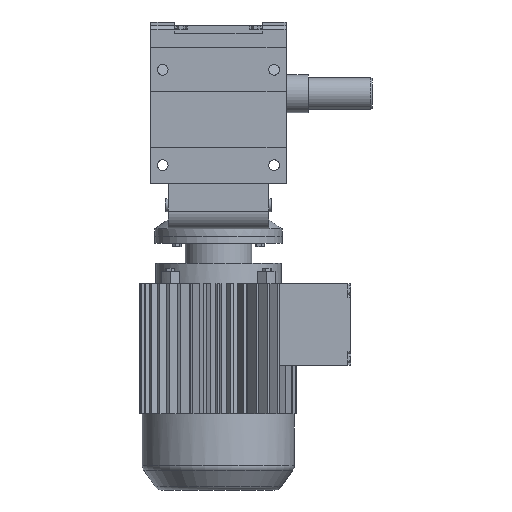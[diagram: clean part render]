
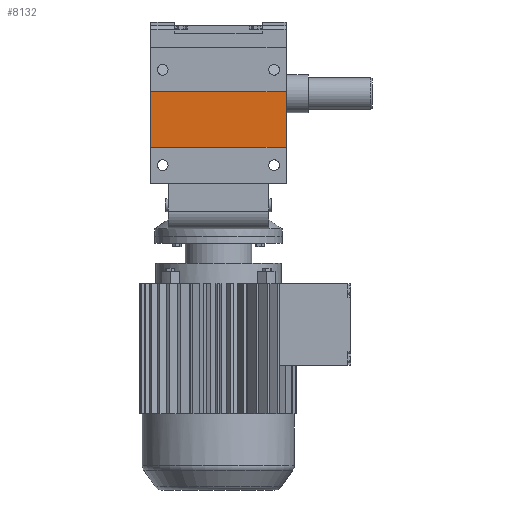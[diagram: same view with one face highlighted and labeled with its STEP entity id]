
A CAD part, front view. The second image highlights one B-rep face of the part: STEP entity #8132.
In plain terms, the highlighted planar face has unit normal (0, -1, 0).
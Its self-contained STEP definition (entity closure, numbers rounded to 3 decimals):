
#634 = PLANE('',#635);
#635 = AXIS2_PLACEMENT_3D('',#636,#637,#638);
#636 = CARTESIAN_POINT('',(-85.,-106.1,61.));
#637 = DIRECTION('',(1.,0.,0.));
#638 = DIRECTION('',(0.,0.,-1.));
#2181 = PLANE('',#2182);
#2182 = AXIS2_PLACEMENT_3D('',#2183,#2184,#2185);
#2183 = CARTESIAN_POINT('',(85.,-106.1,61.));
#2184 = DIRECTION('',(1.,0.,0.));
#2185 = DIRECTION('',(0.,0.,-1.));
#2380 = VERTEX_POINT('',#2381);
#2381 = CARTESIAN_POINT('',(-85.,-135.1,-67.5));
#2395 = PLANE('',#2396);
#2396 = AXIS2_PLACEMENT_3D('',#2397,#2398,#2399);
#2397 = CARTESIAN_POINT('',(85.,-135.1,-67.5));
#2398 = DIRECTION('',(0.,0.,-1.));
#2399 = DIRECTION('',(-1.,0.,0.));
#2407 = EDGE_CURVE('',#2408,#2380,#2410,.T.);
#2408 = VERTEX_POINT('',#2409);
#2409 = CARTESIAN_POINT('',(-85.,-135.1,2.5));
#2410 = SURFACE_CURVE('',#2411,(#2415,#2422),.PCURVE_S1.);
#2411 = LINE('',#2412,#2413);
#2412 = CARTESIAN_POINT('',(-85.,-135.1,2.5));
#2413 = VECTOR('',#2414,1.);
#2414 = DIRECTION('',(0.,0.,-1.));
#2415 = PCURVE('',#634,#2416);
#2416 = DEFINITIONAL_REPRESENTATION('',(#2417),#2421);
#2417 = LINE('',#2418,#2419);
#2418 = CARTESIAN_POINT('',(58.5,-29.));
#2419 = VECTOR('',#2420,1.);
#2420 = DIRECTION('',(1.,0.));
#2421 = ( GEOMETRIC_REPRESENTATION_CONTEXT(2) 
PARAMETRIC_REPRESENTATION_CONTEXT() REPRESENTATION_CONTEXT('2D SPACE',''
  ) );
#2422 = PCURVE('',#2423,#2428);
#2423 = PLANE('',#2424);
#2424 = AXIS2_PLACEMENT_3D('',#2425,#2426,#2427);
#2425 = CARTESIAN_POINT('',(63.25,-135.1,66.));
#2426 = DIRECTION('',(0.,1.,0.));
#2427 = DIRECTION('',(0.,0.,1.));
#2428 = DEFINITIONAL_REPRESENTATION('',(#2429),#2433);
#2429 = LINE('',#2430,#2431);
#2430 = CARTESIAN_POINT('',(-63.5,-148.25));
#2431 = VECTOR('',#2432,1.);
#2432 = DIRECTION('',(-1.,0.));
#2433 = ( GEOMETRIC_REPRESENTATION_CONTEXT(2) 
PARAMETRIC_REPRESENTATION_CONTEXT() REPRESENTATION_CONTEXT('2D SPACE',''
  ) );
#2451 = PLANE('',#2452);
#2452 = AXIS2_PLACEMENT_3D('',#2453,#2454,#2455);
#2453 = CARTESIAN_POINT('',(85.,-135.1,2.5));
#2454 = DIRECTION('',(0.,0.,1.));
#2455 = DIRECTION('',(0.,-1.,0.));
#6750 = VERTEX_POINT('',#6751);
#6751 = CARTESIAN_POINT('',(85.,-135.1,2.5));
#6772 = EDGE_CURVE('',#6750,#6773,#6775,.T.);
#6773 = VERTEX_POINT('',#6774);
#6774 = CARTESIAN_POINT('',(85.,-135.1,-67.5));
#6775 = SURFACE_CURVE('',#6776,(#6780,#6787),.PCURVE_S1.);
#6776 = LINE('',#6777,#6778);
#6777 = CARTESIAN_POINT('',(85.,-135.1,2.5));
#6778 = VECTOR('',#6779,1.);
#6779 = DIRECTION('',(0.,0.,-1.));
#6780 = PCURVE('',#2181,#6781);
#6781 = DEFINITIONAL_REPRESENTATION('',(#6782),#6786);
#6782 = LINE('',#6783,#6784);
#6783 = CARTESIAN_POINT('',(58.5,-29.));
#6784 = VECTOR('',#6785,1.);
#6785 = DIRECTION('',(1.,0.));
#6786 = ( GEOMETRIC_REPRESENTATION_CONTEXT(2) 
PARAMETRIC_REPRESENTATION_CONTEXT() REPRESENTATION_CONTEXT('2D SPACE',''
  ) );
#6787 = PCURVE('',#2423,#6788);
#6788 = DEFINITIONAL_REPRESENTATION('',(#6789),#6793);
#6789 = LINE('',#6790,#6791);
#6790 = CARTESIAN_POINT('',(-63.5,21.75));
#6791 = VECTOR('',#6792,1.);
#6792 = DIRECTION('',(-1.,0.));
#6793 = ( GEOMETRIC_REPRESENTATION_CONTEXT(2) 
PARAMETRIC_REPRESENTATION_CONTEXT() REPRESENTATION_CONTEXT('2D SPACE',''
  ) );
#8132 = ADVANCED_FACE('',(#8133),#2423,.F.);
#8133 = FACE_BOUND('',#8134,.T.);
#8134 = EDGE_LOOP('',(#8135,#8156,#8157,#8178));
#8135 = ORIENTED_EDGE('',*,*,#8136,.T.);
#8136 = EDGE_CURVE('',#6750,#2408,#8137,.T.);
#8137 = SURFACE_CURVE('',#8138,(#8142,#8149),.PCURVE_S1.);
#8138 = LINE('',#8139,#8140);
#8139 = CARTESIAN_POINT('',(85.,-135.1,2.5));
#8140 = VECTOR('',#8141,1.);
#8141 = DIRECTION('',(-1.,0.,0.));
#8142 = PCURVE('',#2423,#8143);
#8143 = DEFINITIONAL_REPRESENTATION('',(#8144),#8148);
#8144 = LINE('',#8145,#8146);
#8145 = CARTESIAN_POINT('',(-63.5,21.75));
#8146 = VECTOR('',#8147,1.);
#8147 = DIRECTION('',(0.,-1.));
#8148 = ( GEOMETRIC_REPRESENTATION_CONTEXT(2) 
PARAMETRIC_REPRESENTATION_CONTEXT() REPRESENTATION_CONTEXT('2D SPACE',''
  ) );
#8149 = PCURVE('',#2451,#8150);
#8150 = DEFINITIONAL_REPRESENTATION('',(#8151),#8155);
#8151 = LINE('',#8152,#8153);
#8152 = CARTESIAN_POINT('',(0.,0.));
#8153 = VECTOR('',#8154,1.);
#8154 = DIRECTION('',(0.,-1.));
#8155 = ( GEOMETRIC_REPRESENTATION_CONTEXT(2) 
PARAMETRIC_REPRESENTATION_CONTEXT() REPRESENTATION_CONTEXT('2D SPACE',''
  ) );
#8156 = ORIENTED_EDGE('',*,*,#2407,.T.);
#8157 = ORIENTED_EDGE('',*,*,#8158,.F.);
#8158 = EDGE_CURVE('',#6773,#2380,#8159,.T.);
#8159 = SURFACE_CURVE('',#8160,(#8164,#8171),.PCURVE_S1.);
#8160 = LINE('',#8161,#8162);
#8161 = CARTESIAN_POINT('',(85.,-135.1,-67.5));
#8162 = VECTOR('',#8163,1.);
#8163 = DIRECTION('',(-1.,0.,0.));
#8164 = PCURVE('',#2423,#8165);
#8165 = DEFINITIONAL_REPRESENTATION('',(#8166),#8170);
#8166 = LINE('',#8167,#8168);
#8167 = CARTESIAN_POINT('',(-133.5,21.75));
#8168 = VECTOR('',#8169,1.);
#8169 = DIRECTION('',(0.,-1.));
#8170 = ( GEOMETRIC_REPRESENTATION_CONTEXT(2) 
PARAMETRIC_REPRESENTATION_CONTEXT() REPRESENTATION_CONTEXT('2D SPACE',''
  ) );
#8171 = PCURVE('',#2395,#8172);
#8172 = DEFINITIONAL_REPRESENTATION('',(#8173),#8177);
#8173 = LINE('',#8174,#8175);
#8174 = CARTESIAN_POINT('',(0.,0.));
#8175 = VECTOR('',#8176,1.);
#8176 = DIRECTION('',(1.,0.));
#8177 = ( GEOMETRIC_REPRESENTATION_CONTEXT(2) 
PARAMETRIC_REPRESENTATION_CONTEXT() REPRESENTATION_CONTEXT('2D SPACE',''
  ) );
#8178 = ORIENTED_EDGE('',*,*,#6772,.F.);
